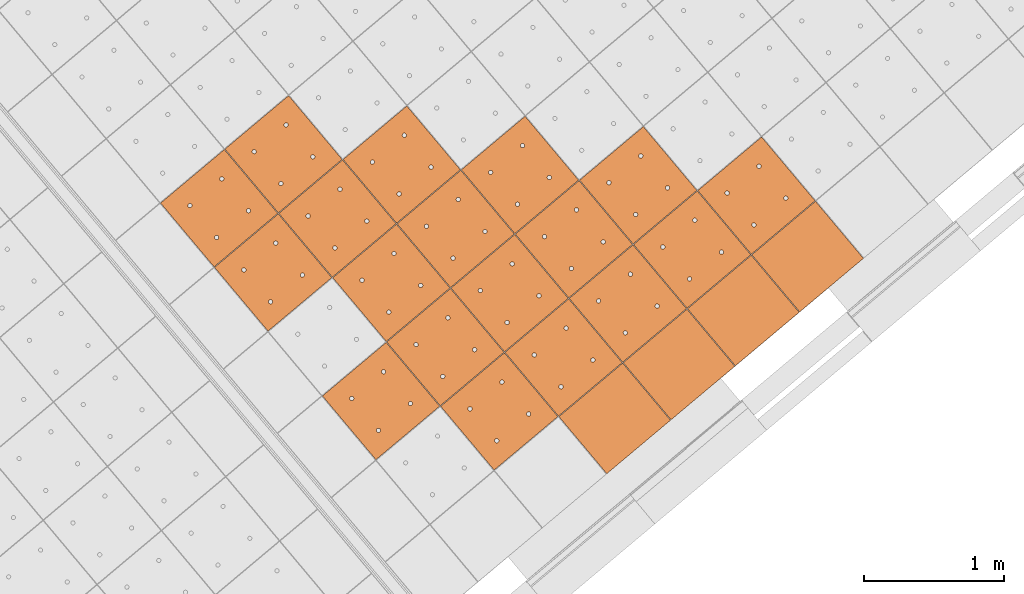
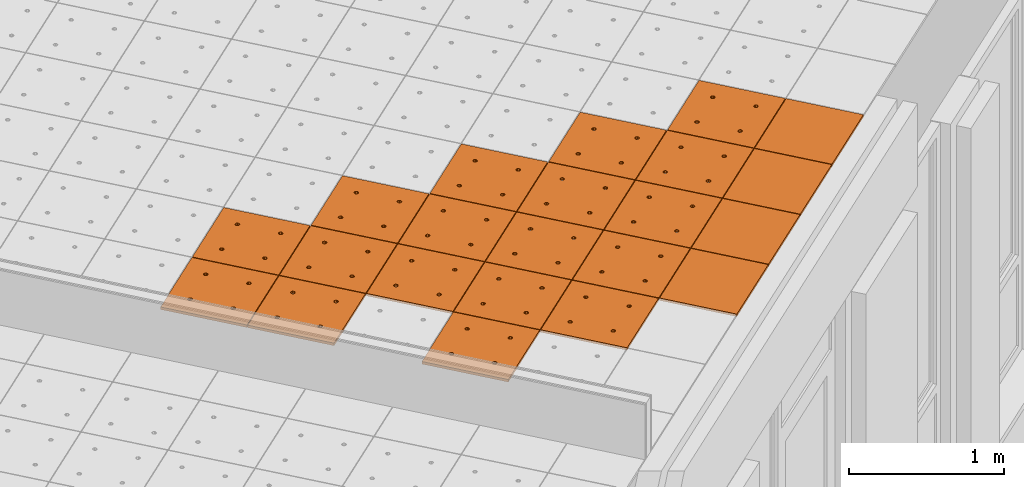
# One storey, part 181 of 338: 22 proxies, 1 element without a shape of its own.
"""IFC2X3 building model written with IfcOpenShell, lengths in millimetres."""

from ifc_helpers import new_model, entity, si_unit, converted_unit, derived_unit, money_unit, direction, frame, origin_with_axes, place, context, subcontext, project, spatial, faceted_brep, source, transform, mapped, material, type_object, type_shapes, element, aggregate, save


model = new_model("IFC2X3")

# Units and contexts
model_context = context("Model", 3, precision=0.01, world=origin_with_axes(), true_north=direction((0.0, 1.0)))
plan_context = context("Plan", 3, precision=0.01, world=origin_with_axes(), true_north=direction((0.0, 1.0)))
body_context = subcontext(model_context, "Body", "Model", "MODEL_VIEW")
ifc_project = project(units=[si_unit("LENGTHUNIT", "METRE", prefix="MILLI"), si_unit("AREAUNIT", "SQUARE_METRE"), si_unit("VOLUMEUNIT", "CUBIC_METRE"), converted_unit("PLANEANGLEUNIT", "DEGREE", entity("IfcPlaneAngleMeasure", 0.0174532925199), si_unit("PLANEANGLEUNIT", "RADIAN"), dimensions=[0, 0, 0, 0, 0, 0, 0]), money_unit("EUR"), converted_unit("TIMEUNIT", "Year", entity("IfcTimeMeasure", 31556926.0), si_unit("TIMEUNIT", "SECOND"), dimensions=[0, 0, 1, 0, 0, 0, 0]), si_unit("MASSUNIT", "GRAM", prefix="KILO"), si_unit("THERMODYNAMICTEMPERATUREUNIT", "DEGREE_CELSIUS"), si_unit("LUMINOUSINTENSITYUNIT", "LUMEN"), si_unit("ENERGYUNIT", "JOULE", prefix="MEGA"), derived_unit("THERMALCONDUCTANCEUNIT", [(si_unit("POWERUNIT", "WATT"), 1), (si_unit("LENGTHUNIT", "METRE"), -1), (si_unit("THERMODYNAMICTEMPERATUREUNIT", "KELVIN"), -1)]), derived_unit("SPECIFICHEATCAPACITYUNIT", [(si_unit("ENERGYUNIT", "JOULE"), 1), (si_unit("MASSUNIT", "GRAM", prefix="KILO"), -1), (si_unit("THERMODYNAMICTEMPERATUREUNIT", "KELVIN"), -1)]), derived_unit("MASSDENSITYUNIT", [(si_unit("MASSUNIT", "GRAM", prefix="KILO"), 1), (si_unit("VOLUMEUNIT", "CUBIC_METRE"), -1)])], contexts=[model_context, plan_context])

# Site, building, storey
site_placement = place(None, origin_with_axes())
site = spatial("IfcSite", under=ifc_project, at=site_placement, Name="Fortuinstraat Woensdrecht", CompositionType="ELEMENT")
building_placement = place(site_placement, origin_with_axes())
building = spatial("IfcBuilding", under=site, at=building_placement, Name="IKC Fortuna", CompositionType="ELEMENT")
storey_placement = place(building_placement, origin_with_axes())
storey = spatial("IfcBuildingStorey", under=building, at=storey_placement, Name="00 begane grond", CompositionType="ELEMENT", Elevation=0.0)

# Covering, proxies
covering_type = type_object("IfcCoveringType", Name="Curtain Wall Type", PredefinedType="CEILING")
covering_placement = place(storey_placement, frame((19785.7448517, -11392.5753808, 4660.0), z_axis=(0.0, 0.0, 1.0), x_axis=(1.0, 0.0, 0.0)))
covering = element("IfcCovering", 1, at=covering_placement, inside=storey, type_object=covering_type, Name="45_Plafondafwerking_P01", PredefinedType="CEILING")
ifc_material = material(Name="Gipsplaat")
building_element_proxy_type_1 = type_object("IfcBuildingElementProxyType", Name="Main Panel 600 x 600 x 20", PredefinedType="NOTDEFINED")
shared_shape_1 = source(origin_with_axes(), body_context, "Body", "Brep", [
    faceted_brep([(2.49999999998, 2.49999999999, -10.0), (300.0, 2.49999999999, -10.0), (300.0, 2.49999999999, 10.0), (2.49999999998, 2.49999999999, 10.0), (2.49999999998, 300.0, -10.0), (2.49999999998, 597.5, -10.0), (300.0, 597.5, -10.0), (597.5, 597.5, -10.0), (597.5, 300.0, -10.0), (597.5, 2.49999999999, -10.0), (166.25, 450.06232995, -10.0), (165.79423259, 452.64711538, -10.0), (164.896546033, 455.11348892, -10.0), (163.58421608, 457.38651108, -10.0), (161.897117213, 459.39711721, -10.0), (159.886511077, 461.08421608, -10.0), (157.613488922, 462.39654603, -10.0), (155.147115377, 463.29423259, -10.0), (152.562329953, 463.75, -10.0), (149.937670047, 463.75, -10.0), (147.352884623, 463.29423259, -10.0), (144.886511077, 462.39654603, -10.0), (142.613488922, 461.08421608, -10.0), (140.602882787, 459.39711721, -10.0), (138.91578392, 457.38651108, -10.0), (137.603453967, 455.11348892, -10.0), (136.705767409, 452.64711538, -10.0), (136.25, 450.06232995, -10.0), (136.25, 448.75, -10.0), (136.25, 447.43767005, -10.0), (136.705767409, 444.85288462, -10.0), (137.603453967, 442.38651108, -10.0), (138.91578392, 440.11348892, -10.0), (140.602882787, 438.10288279, -10.0), (142.613488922, 436.41578392, -10.0), (144.886511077, 435.10345397, -10.0), (147.352884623, 434.20576741, -10.0), (149.937670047, 433.75, -10.0), (152.562329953, 433.75, -10.0), (155.147115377, 434.20576741, -10.0), (157.613488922, 435.10345397, -10.0), (159.886511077, 436.41578392, -10.0), (161.897117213, 438.10288279, -10.0), (163.58421608, 440.11348892, -10.0), (164.896546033, 442.38651108, -10.0), (165.79423259, 444.85288462, -10.0), (166.25, 447.43767005, -10.0), (463.75, 450.06232995, -10.0), (463.29423259, 452.64711538, -10.0), (462.396546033, 455.11348892, -10.0), (461.08421608, 457.38651108, -10.0), (459.397117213, 459.39711721, -10.0), (457.386511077, 461.08421608, -10.0), (455.113488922, 462.39654603, -10.0), (452.647115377, 463.29423259, -10.0), (450.062329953, 463.75, -10.0), (447.437670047, 463.75, -10.0), (444.852884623, 463.29423259, -10.0), (442.386511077, 462.39654603, -10.0), (440.113488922, 461.08421608, -10.0), (438.102882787, 459.39711721, -10.0), (436.41578392, 457.38651108, -10.0), (435.103453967, 455.11348892, -10.0), (434.205767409, 452.64711538, -10.0), (433.75, 450.06232995, -10.0), (433.75, 448.75, -10.0), (433.75, 447.43767005, -10.0), (434.205767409, 444.85288462, -10.0), (435.103453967, 442.38651108, -10.0), (436.41578392, 440.11348892, -10.0), (438.102882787, 438.10288279, -10.0), (440.113488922, 436.41578392, -10.0), (442.386511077, 435.10345397, -10.0), (444.852884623, 434.20576741, -10.0), (447.437670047, 433.75, -10.0), (450.062329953, 433.75, -10.0), (452.647115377, 434.20576741, -10.0), (455.113488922, 435.10345397, -10.0), (457.386511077, 436.41578392, -10.0), (459.397117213, 438.10288279, -10.0), (461.08421608, 440.11348892, -10.0), (462.396546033, 442.38651108, -10.0), (463.29423259, 444.85288462, -10.0), (463.75, 447.43767005, -10.0), (463.75, 152.56232995, -10.0), (463.29423259, 155.14711538, -10.0), (462.396546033, 157.61348892, -10.0), (461.08421608, 159.88651108, -10.0), (459.397117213, 161.89711721, -10.0), (457.386511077, 163.58421608, -10.0), (455.113488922, 164.89654603, -10.0), (452.647115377, 165.79423259, -10.0), (450.062329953, 166.25, -10.0), (447.437670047, 166.25, -10.0), (444.852884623, 165.79423259, -10.0), (442.386511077, 164.89654603, -10.0), (440.113488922, 163.58421608, -10.0), (438.102882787, 161.89711721, -10.0), (436.41578392, 159.88651108, -10.0), (435.103453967, 157.61348892, -10.0), (434.205767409, 155.14711538, -10.0), (433.75, 152.56232995, -10.0), (433.75, 151.25, -10.0), (433.75, 149.93767005, -10.0), (434.205767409, 147.35288462, -10.0), (435.103453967, 144.88651108, -10.0), (436.41578392, 142.61348892, -10.0), (438.102882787, 140.60288279, -10.0), (440.113488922, 138.91578392, -10.0), (442.386511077, 137.60345397, -10.0), (444.852884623, 136.70576741, -10.0), (447.437670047, 136.25, -10.0), (450.062329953, 136.25, -10.0), (452.647115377, 136.70576741, -10.0), (455.113488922, 137.60345397, -10.0), (457.386511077, 138.91578392, -10.0), (459.397117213, 140.60288279, -10.0), (461.08421608, 142.61348892, -10.0), (462.396546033, 144.88651108, -10.0), (463.29423259, 147.35288462, -10.0), (463.75, 149.93767005, -10.0), (166.25, 152.56232995, -10.0), (165.79423259, 155.14711538, -10.0), (164.896546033, 157.61348892, -10.0), (163.58421608, 159.88651108, -10.0), (161.897117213, 161.89711721, -10.0), (159.886511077, 163.58421608, -10.0), (157.613488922, 164.89654603, -10.0), (155.147115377, 165.79423259, -10.0), (152.562329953, 166.25, -10.0), (149.937670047, 166.25, -10.0), (147.352884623, 165.79423259, -10.0), (144.886511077, 164.89654603, -10.0), (142.613488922, 163.58421608, -10.0), (140.602882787, 161.89711721, -10.0), (138.91578392, 159.88651108, -10.0), (137.603453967, 157.61348892, -10.0), (136.705767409, 155.14711538, -10.0), (136.25, 152.56232995, -10.0), (136.25, 151.25, -10.0), (136.25, 149.93767005, -10.0), (136.705767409, 147.35288462, -10.0), (137.603453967, 144.88651108, -10.0), (138.91578392, 142.61348892, -10.0), (140.602882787, 140.60288279, -10.0), (142.613488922, 138.91578392, -10.0), (144.886511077, 137.60345397, -10.0), (147.352884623, 136.70576741, -10.0), (149.937670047, 136.25, -10.0), (152.562329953, 136.25, -10.0), (155.147115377, 136.70576741, -10.0), (157.613488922, 137.60345397, -10.0), (159.886511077, 138.91578392, -10.0), (161.897117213, 140.60288279, -10.0), (163.58421608, 142.61348892, -10.0), (164.896546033, 144.88651108, -10.0), (165.79423259, 147.35288462, -10.0), (166.25, 149.93767005, -10.0), (597.5, 2.49999999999, 10.0), (597.5, 300.0, 10.0), (597.5, 597.5, 10.0), (300.0, 597.5, 10.0), (2.49999999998, 597.5, 10.0), (2.49999999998, 300.0, 10.0), (166.25, 450.06232995, 10.0), (166.25, 447.43767005, 10.0), (165.79423259, 444.85288462, 10.0), (164.896546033, 442.38651108, 10.0), (163.58421608, 440.11348892, 10.0), (161.897117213, 438.10288279, 10.0), (159.886511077, 436.41578392, 10.0), (157.613488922, 435.10345397, 10.0), (155.147115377, 434.20576741, 10.0), (152.562329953, 433.75, 10.0), (149.937670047, 433.75, 10.0), (147.352884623, 434.20576741, 10.0), (144.886511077, 435.10345397, 10.0), (142.613488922, 436.41578392, 10.0), (140.602882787, 438.10288279, 10.0), (138.91578392, 440.11348892, 10.0), (137.603453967, 442.38651108, 10.0), (136.705767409, 444.85288462, 10.0), (136.25, 447.43767005, 10.0), (136.25, 448.75, 10.0), (136.25, 450.06232995, 10.0), (136.705767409, 452.64711538, 10.0), (137.603453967, 455.11348892, 10.0), (138.91578392, 457.38651108, 10.0), (140.602882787, 459.39711721, 10.0), (142.613488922, 461.08421608, 10.0), (144.886511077, 462.39654603, 10.0), (147.352884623, 463.29423259, 10.0), (149.937670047, 463.75, 10.0), (152.562329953, 463.75, 10.0), (155.147115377, 463.29423259, 10.0), (157.613488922, 462.39654603, 10.0), (159.886511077, 461.08421608, 10.0), (161.897117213, 459.39711721, 10.0), (163.58421608, 457.38651108, 10.0), (164.896546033, 455.11348892, 10.0), (165.79423259, 452.64711538, 10.0), (463.75, 450.06232995, 10.0), (463.75, 447.43767005, 10.0), (463.29423259, 444.85288462, 10.0), (462.396546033, 442.38651108, 10.0), (461.08421608, 440.11348892, 10.0), (459.397117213, 438.10288279, 10.0), (457.386511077, 436.41578392, 10.0), (455.113488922, 435.10345397, 10.0), (452.647115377, 434.20576741, 10.0), (450.062329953, 433.75, 10.0), (447.437670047, 433.75, 10.0), (444.852884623, 434.20576741, 10.0), (442.386511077, 435.10345397, 10.0), (440.113488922, 436.41578392, 10.0), (438.102882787, 438.10288279, 10.0), (436.41578392, 440.11348892, 10.0), (435.103453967, 442.38651108, 10.0), (434.205767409, 444.85288462, 10.0), (433.75, 447.43767005, 10.0), (433.75, 448.75, 10.0), (433.75, 450.06232995, 10.0), (434.205767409, 452.64711538, 10.0), (435.103453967, 455.11348892, 10.0), (436.41578392, 457.38651108, 10.0), (438.102882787, 459.39711721, 10.0), (440.113488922, 461.08421608, 10.0), (442.386511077, 462.39654603, 10.0), (444.852884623, 463.29423259, 10.0), (447.437670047, 463.75, 10.0), (450.062329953, 463.75, 10.0), (452.647115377, 463.29423259, 10.0), (455.113488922, 462.39654603, 10.0), (457.386511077, 461.08421608, 10.0), (459.397117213, 459.39711721, 10.0), (461.08421608, 457.38651108, 10.0), (462.396546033, 455.11348892, 10.0), (463.29423259, 452.64711538, 10.0), (463.75, 152.56232995, 10.0), (463.75, 149.93767005, 10.0), (463.29423259, 147.35288462, 10.0), (462.396546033, 144.88651108, 10.0), (461.08421608, 142.61348892, 10.0), (459.397117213, 140.60288279, 10.0), (457.386511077, 138.91578392, 10.0), (455.113488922, 137.60345397, 10.0), (452.647115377, 136.70576741, 10.0), (450.062329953, 136.25, 10.0), (447.437670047, 136.25, 10.0), (444.852884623, 136.70576741, 10.0), (442.386511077, 137.60345397, 10.0), (440.113488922, 138.91578392, 10.0), (438.102882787, 140.60288279, 10.0), (436.41578392, 142.61348892, 10.0), (435.103453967, 144.88651108, 10.0), (434.205767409, 147.35288462, 10.0), (433.75, 149.93767005, 10.0), (433.75, 151.25, 10.0), (433.75, 152.56232995, 10.0), (434.205767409, 155.14711538, 10.0), (435.103453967, 157.61348892, 10.0), (436.41578392, 159.88651108, 10.0), (438.102882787, 161.89711721, 10.0), (440.113488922, 163.58421608, 10.0), (442.386511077, 164.89654603, 10.0), (444.852884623, 165.79423259, 10.0), (447.437670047, 166.25, 10.0), (450.062329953, 166.25, 10.0), (452.647115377, 165.79423259, 10.0), (455.113488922, 164.89654603, 10.0), (457.386511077, 163.58421608, 10.0), (459.397117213, 161.89711721, 10.0), (461.08421608, 159.88651108, 10.0), (462.396546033, 157.61348892, 10.0), (463.29423259, 155.14711538, 10.0), (166.25, 152.56232995, 10.0), (166.25, 149.93767005, 10.0), (165.79423259, 147.35288462, 10.0), (164.896546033, 144.88651108, 10.0), (163.58421608, 142.61348892, 10.0), (161.897117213, 140.60288279, 10.0), (159.886511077, 138.91578392, 10.0), (157.613488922, 137.60345397, 10.0), (155.147115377, 136.70576741, 10.0), (152.562329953, 136.25, 10.0), (149.937670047, 136.25, 10.0), (147.352884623, 136.70576741, 10.0), (144.886511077, 137.60345397, 10.0), (142.613488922, 138.91578392, 10.0), (140.602882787, 140.60288279, 10.0), (138.91578392, 142.61348892, 10.0), (137.603453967, 144.88651108, 10.0), (136.705767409, 147.35288462, 10.0), (136.25, 149.93767005, 10.0), (136.25, 151.25, 10.0), (136.25, 152.56232995, 10.0), (136.705767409, 155.14711538, 10.0), (137.603453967, 157.61348892, 10.0), (138.91578392, 159.88651108, 10.0), (140.602882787, 161.89711721, 10.0), (142.613488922, 163.58421608, 10.0), (144.886511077, 164.89654603, 10.0), (147.352884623, 165.79423259, 10.0), (149.937670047, 166.25, 10.0), (152.562329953, 166.25, 10.0), (155.147115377, 165.79423259, 10.0), (157.613488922, 164.89654603, 10.0), (159.886511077, 163.58421608, 10.0), (161.897117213, 161.89711721, 10.0), (163.58421608, 159.88651108, 10.0), (164.896546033, 157.61348892, 10.0), (165.79423259, 155.14711538, 10.0)], [[[0, 1, 2, 3]], [[0, 4, 5, 6, 7, 8, 9, 1], [10, 11, 12, 13, 14, 15, 16, 17, 18, 19, 20, 21, 22, 23, 24, 25, 26, 27, 28, 29, 30, 31, 32, 33, 34, 35, 36, 37, 38, 39, 40, 41, 42, 43, 44, 45, 46], [47, 48, 49, 50, 51, 52, 53, 54, 55, 56, 57, 58, 59, 60, 61, 62, 63, 64, 65, 66, 67, 68, 69, 70, 71, 72, 73, 74, 75, 76, 77, 78, 79, 80, 81, 82, 83], [84, 85, 86, 87, 88, 89, 90, 91, 92, 93, 94, 95, 96, 97, 98, 99, 100, 101, 102, 103, 104, 105, 106, 107, 108, 109, 110, 111, 112, 113, 114, 115, 116, 117, 118, 119, 120], [121, 122, 123, 124, 125, 126, 127, 128, 129, 130, 131, 132, 133, 134, 135, 136, 137, 138, 139, 140, 141, 142, 143, 144, 145, 146, 147, 148, 149, 150, 151, 152, 153, 154, 155, 156, 157]], [[1, 9, 158, 2]], [[3, 2, 158, 159, 160, 161, 162, 163], [164, 165, 166, 167, 168, 169, 170, 171, 172, 173, 174, 175, 176, 177, 178, 179, 180, 181, 182, 183, 184, 185, 186, 187, 188, 189, 190, 191, 192, 193, 194, 195, 196, 197, 198, 199, 200], [201, 202, 203, 204, 205, 206, 207, 208, 209, 210, 211, 212, 213, 214, 215, 216, 217, 218, 219, 220, 221, 222, 223, 224, 225, 226, 227, 228, 229, 230, 231, 232, 233, 234, 235, 236, 237], [238, 239, 240, 241, 242, 243, 244, 245, 246, 247, 248, 249, 250, 251, 252, 253, 254, 255, 256, 257, 258, 259, 260, 261, 262, 263, 264, 265, 266, 267, 268, 269, 270, 271, 272, 273, 274], [275, 276, 277, 278, 279, 280, 281, 282, 283, 284, 285, 286, 287, 288, 289, 290, 291, 292, 293, 294, 295, 296, 297, 298, 299, 300, 301, 302, 303, 304, 305, 306, 307, 308, 309, 310, 311]], [[4, 0, 3, 163]], [[5, 4, 163, 162]], [[6, 5, 162, 161]], [[7, 6, 161, 160]], [[8, 7, 160, 159]], [[9, 8, 159, 158]], [[11, 10, 164, 200]], [[12, 11, 200, 199]], [[13, 12, 199, 198]], [[14, 13, 198, 197]], [[15, 14, 197, 196]], [[16, 15, 196, 195]], [[17, 16, 195, 194]], [[18, 17, 194, 193]], [[19, 18, 193, 192]], [[20, 19, 192, 191]], [[21, 20, 191, 190]], [[22, 21, 190, 189]], [[23, 22, 189, 188]], [[24, 23, 188, 187]], [[25, 24, 187, 186]], [[26, 25, 186, 185]], [[27, 26, 185, 184]], [[28, 27, 184, 183]], [[29, 28, 183, 182]], [[30, 29, 182, 181]], [[31, 30, 181, 180]], [[32, 31, 180, 179]], [[33, 32, 179, 178]], [[34, 33, 178, 177]], [[35, 34, 177, 176]], [[36, 35, 176, 175]], [[37, 36, 175, 174]], [[38, 37, 174, 173]], [[39, 38, 173, 172]], [[40, 39, 172, 171]], [[41, 40, 171, 170]], [[42, 41, 170, 169]], [[43, 42, 169, 168]], [[44, 43, 168, 167]], [[45, 44, 167, 166]], [[46, 45, 166, 165]], [[10, 46, 165, 164]], [[48, 47, 201, 237]], [[49, 48, 237, 236]], [[50, 49, 236, 235]], [[51, 50, 235, 234]], [[52, 51, 234, 233]], [[53, 52, 233, 232]], [[54, 53, 232, 231]], [[55, 54, 231, 230]], [[56, 55, 230, 229]], [[57, 56, 229, 228]], [[58, 57, 228, 227]], [[59, 58, 227, 226]], [[60, 59, 226, 225]], [[61, 60, 225, 224]], [[62, 61, 224, 223]], [[63, 62, 223, 222]], [[64, 63, 222, 221]], [[65, 64, 221, 220]], [[66, 65, 220, 219]], [[67, 66, 219, 218]], [[68, 67, 218, 217]], [[69, 68, 217, 216]], [[70, 69, 216, 215]], [[71, 70, 215, 214]], [[72, 71, 214, 213]], [[73, 72, 213, 212]], [[74, 73, 212, 211]], [[75, 74, 211, 210]], [[76, 75, 210, 209]], [[77, 76, 209, 208]], [[78, 77, 208, 207]], [[79, 78, 207, 206]], [[80, 79, 206, 205]], [[81, 80, 205, 204]], [[82, 81, 204, 203]], [[83, 82, 203, 202]], [[47, 83, 202, 201]], [[85, 84, 238, 274]], [[86, 85, 274, 273]], [[87, 86, 273, 272]], [[88, 87, 272, 271]], [[89, 88, 271, 270]], [[90, 89, 270, 269]], [[91, 90, 269, 268]], [[92, 91, 268, 267]], [[93, 92, 267, 266]], [[94, 93, 266, 265]], [[95, 94, 265, 264]], [[96, 95, 264, 263]], [[97, 96, 263, 262]], [[98, 97, 262, 261]], [[99, 98, 261, 260]], [[100, 99, 260, 259]], [[101, 100, 259, 258]], [[102, 101, 258, 257]], [[103, 102, 257, 256]], [[104, 103, 256, 255]], [[105, 104, 255, 254]], [[106, 105, 254, 253]], [[107, 106, 253, 252]], [[108, 107, 252, 251]], [[109, 108, 251, 250]], [[110, 109, 250, 249]], [[111, 110, 249, 248]], [[112, 111, 248, 247]], [[113, 112, 247, 246]], [[114, 113, 246, 245]], [[115, 114, 245, 244]], [[116, 115, 244, 243]], [[117, 116, 243, 242]], [[118, 117, 242, 241]], [[119, 118, 241, 240]], [[120, 119, 240, 239]], [[84, 120, 239, 238]], [[122, 121, 275, 311]], [[123, 122, 311, 310]], [[124, 123, 310, 309]], [[125, 124, 309, 308]], [[126, 125, 308, 307]], [[127, 126, 307, 306]], [[128, 127, 306, 305]], [[129, 128, 305, 304]], [[130, 129, 304, 303]], [[131, 130, 303, 302]], [[132, 131, 302, 301]], [[133, 132, 301, 300]], [[134, 133, 300, 299]], [[135, 134, 299, 298]], [[136, 135, 298, 297]], [[137, 136, 297, 296]], [[138, 137, 296, 295]], [[139, 138, 295, 294]], [[140, 139, 294, 293]], [[141, 140, 293, 292]], [[142, 141, 292, 291]], [[143, 142, 291, 290]], [[144, 143, 290, 289]], [[145, 144, 289, 288]], [[146, 145, 288, 287]], [[147, 146, 287, 286]], [[148, 147, 286, 285]], [[149, 148, 285, 284]], [[150, 149, 284, 283]], [[151, 150, 283, 282]], [[152, 151, 282, 281]], [[153, 152, 281, 280]], [[154, 153, 280, 279]], [[155, 154, 279, 278]], [[156, 155, 278, 277]], [[157, 156, 277, 276]], [[121, 157, 276, 275]]]),
])
type_shapes(building_element_proxy_type_1, [shared_shape_1])
proxy_1_placement = place(covering_placement, frame((557.718536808, 1993.67870229, 1.80300219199e-10), z_axis=(0.0, 0.0, 1.0), x_axis=(1.0, 0.0, 0.0)))
proxy_1 = element("IfcBuildingElementProxy", 2, at=proxy_1_placement, type_object=building_element_proxy_type_1, material=ifc_material, Name="__600x601 Rockfon Krios", context=body_context, shape_type="MappedRepresentation", body=[
    mapped(shared_shape_1, transform((36.9769427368, 422.649625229, 0.0), x_axis=(-0.766044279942, -0.642787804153, 0.0), y_axis=(0.642787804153, -0.766044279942, 0.0), z_axis=(0.0, 0.0, 1.0))),
])
proxy_2_placement = place(covering_placement, frame((172.045854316, 2453.30527025, 1.80300219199e-10), z_axis=(0.0, 0.0, 1.0), x_axis=(1.0, 0.0, 0.0)))
proxy_2 = element("IfcBuildingElementProxy", 3, at=proxy_2_placement, type_object=building_element_proxy_type_1, material=ifc_material, Name="__600x603 Rockfon Krios", context=body_context, shape_type="MappedRepresentation", body=[
    mapped(shared_shape_1, transform((36.9769427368, 422.649625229, 0.0), x_axis=(-0.766044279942, -0.642787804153, 0.0), y_axis=(0.642787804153, -0.766044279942, 0.0), z_axis=(0.0, 0.0, 1.0))),
])
proxy_3_placement = place(covering_placement, frame((-213.626828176, 2912.93183822, 1.80300219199e-10), z_axis=(0.0, 0.0, 1.0), x_axis=(1.0, 0.0, 0.0)))
proxy_3 = element("IfcBuildingElementProxy", 4, at=proxy_3_placement, type_object=building_element_proxy_type_1, material=ifc_material, Name="__600x614 Rockfon Krios", context=body_context, shape_type="MappedRepresentation", body=[
    mapped(shared_shape_1, transform((36.9769427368, 422.649625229, 0.0), x_axis=(-0.766044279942, -0.642787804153, 0.0), y_axis=(0.642787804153, -0.766044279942, 0.0), z_axis=(0.0, 0.0, 1.0))),
])
proxy_4_placement = place(covering_placement, frame((-287.580713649, 2067.63258776, 1.99840144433e-10), z_axis=(0.0, 0.0, 1.0), x_axis=(1.0, 0.0, 0.0)))
proxy_4 = element("IfcBuildingElementProxy", 5, at=proxy_4_placement, type_object=building_element_proxy_type_1, material=ifc_material, Name="__600x633 Rockfon Krios", context=body_context, shape_type="MappedRepresentation", body=[
    mapped(shared_shape_1, transform((36.9769427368, 422.649625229, 0.0), x_axis=(-0.766044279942, -0.642787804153, 0.0), y_axis=(0.642787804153, -0.766044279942, 0.0), z_axis=(0.0, 0.0, 1.0))),
])
proxy_5_placement = place(covering_placement, frame((1403.01778727, 1919.72481681, 1.60760293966e-10), z_axis=(0.0, 0.0, 1.0), x_axis=(1.0, 0.0, 0.0)))
proxy_5 = element("IfcBuildingElementProxy", 6, at=proxy_5_placement, type_object=building_element_proxy_type_1, material=ifc_material, Name="__600x665 Rockfon Krios", context=body_context, shape_type="MappedRepresentation", body=[
    mapped(shared_shape_1, transform((36.9769427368, 422.649625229, 0.0), x_axis=(-0.766044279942, -0.642787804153, 0.0), y_axis=(0.642787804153, -0.766044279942, 0.0), z_axis=(0.0, 0.0, 1.0))),
])
proxy_6_placement = place(covering_placement, frame((1017.34510477, 2379.35138478, 1.60760293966e-10), z_axis=(0.0, 0.0, 1.0), x_axis=(1.0, 0.0, 0.0)))
proxy_6 = element("IfcBuildingElementProxy", 7, at=proxy_6_placement, type_object=building_element_proxy_type_1, material=ifc_material, Name="__600x667 Rockfon Krios", context=body_context, shape_type="MappedRepresentation", body=[
    mapped(shared_shape_1, transform((36.9769427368, 422.649625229, 0.0), x_axis=(-0.766044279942, -0.642787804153, 0.0), y_axis=(0.642787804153, -0.766044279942, 0.0), z_axis=(0.0, 0.0, 1.0))),
])
proxy_7_placement = place(covering_placement, frame((631.672422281, 2838.97795274, 1.60760293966e-10), z_axis=(0.0, 0.0, 1.0), x_axis=(1.0, 0.0, 0.0)))
proxy_7 = element("IfcBuildingElementProxy", 8, at=proxy_7_placement, type_object=building_element_proxy_type_1, material=ifc_material, Name="__600x668 Rockfon Krios", context=body_context, shape_type="MappedRepresentation", body=[
    mapped(shared_shape_1, transform((36.9769427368, 422.649625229, 0.0), x_axis=(-0.766044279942, -0.642787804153, 0.0), y_axis=(0.642787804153, -0.766044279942, 0.0), z_axis=(0.0, 0.0, 1.0))),
])
proxy_8_placement = place(covering_placement, frame((-1132.87996411, 2141.58647323, 2.20268248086e-10), z_axis=(0.0, 0.0, 1.0), x_axis=(1.0, 0.0, 0.0)))
proxy_8 = element("IfcBuildingElementProxy", 9, at=proxy_8_placement, type_object=building_element_proxy_type_1, material=ifc_material, Name="__600x673 Rockfon Krios", context=body_context, shape_type="MappedRepresentation", body=[
    mapped(shared_shape_1, transform((36.9769427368, 422.649625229, 0.0), x_axis=(-0.766044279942, -0.642787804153, 0.0), y_axis=(0.642787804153, -0.766044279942, 0.0), z_axis=(0.0, 0.0, 1.0))),
])
proxy_9_placement = place(covering_placement, frame((-1518.5526466, 2601.2130412, 2.20268248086e-10), z_axis=(0.0, 0.0, 1.0), x_axis=(1.0, 0.0, 0.0)))
proxy_9 = element("IfcBuildingElementProxy", 10, at=proxy_9_placement, type_object=building_element_proxy_type_1, material=ifc_material, Name="__600x677 Rockfon Krios", context=body_context, shape_type="MappedRepresentation", body=[
    mapped(shared_shape_1, transform((36.9769427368, 422.649625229, 0.0), x_axis=(-0.766044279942, -0.642787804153, 0.0), y_axis=(0.642787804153, -0.766044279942, 0.0), z_axis=(0.0, 0.0, 1.0))),
])
proxy_10_placement = place(covering_placement, frame((483.764651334, 1148.37945183, 1.99840144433e-10), z_axis=(0.0, 0.0, 1.0), x_axis=(1.0, 0.0, 0.0)))
proxy_10 = element("IfcBuildingElementProxy", 11, at=proxy_10_placement, type_object=building_element_proxy_type_1, material=ifc_material, Name="__600x678 Rockfon Krios", context=body_context, shape_type="MappedRepresentation", body=[
    mapped(shared_shape_1, transform((36.9769427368, 422.649625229, 0.0), x_axis=(-0.766044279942, -0.642787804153, 0.0), y_axis=(0.642787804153, -0.766044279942, 0.0), z_axis=(0.0, 0.0, 1.0))),
])
proxy_11_placement = place(covering_placement, frame((98.0919688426, 1608.0060198, 1.99840144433e-10), z_axis=(0.0, 0.0, 1.0), x_axis=(1.0, 0.0, 0.0)))
proxy_11 = element("IfcBuildingElementProxy", 12, at=proxy_11_placement, type_object=building_element_proxy_type_1, material=ifc_material, Name="__600x679 Rockfon Krios", context=body_context, shape_type="MappedRepresentation", body=[
    mapped(shared_shape_1, transform((36.9769427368, 422.649625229, 0.0), x_axis=(-0.766044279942, -0.642787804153, 0.0), y_axis=(0.642787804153, -0.766044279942, 0.0), z_axis=(0.0, 0.0, 1.0))),
])
proxy_12_placement = place(covering_placement, frame((-361.534599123, 1222.3333373, 2.20268248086e-10), z_axis=(0.0, 0.0, 1.0), x_axis=(1.0, 0.0, 0.0)))
proxy_12 = element("IfcBuildingElementProxy", 13, at=proxy_12_placement, type_object=building_element_proxy_type_1, material=ifc_material, Name="__600x681 Rockfon Krios", context=body_context, shape_type="MappedRepresentation", body=[
    mapped(shared_shape_1, transform((36.9769427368, 422.649625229, 0.0), x_axis=(-0.766044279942, -0.642787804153, 0.0), y_axis=(0.642787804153, -0.766044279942, 0.0), z_axis=(0.0, 0.0, 1.0))),
])
proxy_13_placement = place(covering_placement, frame((-673.253396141, 2527.25915573, 1.99840144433e-10), z_axis=(0.0, 0.0, 1.0), x_axis=(1.0, 0.0, 0.0)))
proxy_13 = element("IfcBuildingElementProxy", 14, at=proxy_13_placement, type_object=building_element_proxy_type_1, material=ifc_material, Name="__600x683 Rockfon Krios", context=body_context, shape_type="MappedRepresentation", body=[
    mapped(shared_shape_1, transform((36.9769427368, 422.649625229, 0.0), x_axis=(-0.766044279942, -0.642787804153, 0.0), y_axis=(0.642787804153, -0.766044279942, 0.0), z_axis=(0.0, 0.0, 1.0))),
])
proxy_14_placement = place(covering_placement, frame((-1058.92607863, 2986.88572369, 1.99840144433e-10), z_axis=(0.0, 0.0, 1.0), x_axis=(1.0, 0.0, 0.0)))
proxy_14 = element("IfcBuildingElementProxy", 15, at=proxy_14_placement, type_object=building_element_proxy_type_1, material=ifc_material, Name="__600x684 Rockfon Krios", context=body_context, shape_type="MappedRepresentation", body=[
    mapped(shared_shape_1, transform((36.9769427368, 422.649625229, 0.0), x_axis=(-0.766044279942, -0.642787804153, 0.0), y_axis=(0.642787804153, -0.766044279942, 0.0), z_axis=(0.0, 0.0, 1.0))),
])
proxy_15_placement = place(covering_placement, frame((943.3912193, 1534.05213432, 1.80300219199e-10), z_axis=(0.0, 0.0, 1.0), x_axis=(1.0, 0.0, 0.0)))
proxy_15 = element("IfcBuildingElementProxy", 16, at=proxy_15_placement, type_object=building_element_proxy_type_1, material=ifc_material, Name="__600x689 Rockfon Krios", context=body_context, shape_type="MappedRepresentation", body=[
    mapped(shared_shape_1, transform((36.9769427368, 422.649625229, 0.0), x_axis=(-0.766044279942, -0.642787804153, 0.0), y_axis=(0.642787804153, -0.766044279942, 0.0), z_axis=(0.0, 0.0, 1.0))),
])
proxy_16_placement = place(covering_placement, frame((2322.2709232, 2691.0701818, 1.21680443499e-10), z_axis=(0.0, 0.0, 1.0), x_axis=(1.0, 0.0, 0.0)))
proxy_16 = element("IfcBuildingElementProxy", 17, at=proxy_16_placement, type_object=building_element_proxy_type_1, material=ifc_material, Name="__600x742 Rockfon Krios", context=body_context, shape_type="MappedRepresentation", body=[
    mapped(shared_shape_1, transform((36.9769427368, 422.649625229, 0.0), x_axis=(-0.766044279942, -0.642787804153, 0.0), y_axis=(0.642787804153, -0.766044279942, 0.0), z_axis=(0.0, 0.0, 1.0))),
])
proxy_17_placement = place(covering_placement, frame((1476.97167274, 2765.02406727, 1.41220368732e-10), z_axis=(0.0, 0.0, 1.0), x_axis=(1.0, 0.0, 0.0)))
proxy_17 = element("IfcBuildingElementProxy", 18, at=proxy_17_placement, type_object=building_element_proxy_type_1, material=ifc_material, Name="__600x750 Rockfon Krios", context=body_context, shape_type="MappedRepresentation", body=[
    mapped(shared_shape_1, transform((36.9769427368, 422.649625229, 0.0), x_axis=(-0.766044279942, -0.642787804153, 0.0), y_axis=(0.642787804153, -0.766044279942, 0.0), z_axis=(0.0, 0.0, 1.0))),
])
proxy_18_placement = place(covering_placement, frame((1862.64435523, 2305.39749931, 1.41220368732e-10), z_axis=(0.0, 0.0, 1.0), x_axis=(1.0, 0.0, 0.0)))
proxy_18 = element("IfcBuildingElementProxy", 19, at=proxy_18_placement, type_object=building_element_proxy_type_1, material=ifc_material, Name="__600x751 Rockfon Krios", context=body_context, shape_type="MappedRepresentation", body=[
    mapped(shared_shape_1, transform((36.9769427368, 422.649625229, 0.0), x_axis=(-0.766044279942, -0.642787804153, 0.0), y_axis=(0.642787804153, -0.766044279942, 0.0), z_axis=(0.0, 0.0, 1.0))),
])
building_element_proxy_type_2 = type_object("IfcBuildingElementProxyType", Name="600 x 538 x 20", PredefinedType="NOTDEFINED")
shared_shape_2 = source(origin_with_axes(), body_context, "Body", "Brep", [
    faceted_brep([(2.49999356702, 2.5000047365, -10.0), (597.499998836, 2.49999810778, -10.0), (597.499998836, 2.49999810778, 10.0), (2.49999356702, 2.5000047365, 10.0), (2.49999991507, 535.002599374, -10.0), (597.500005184, 535.002592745, -10.0), (597.500005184, 535.002592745, 10.0), (2.49999991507, 535.002599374, 10.0)], [[[0, 1, 2, 3]], [[0, 4, 5, 1]], [[1, 5, 6, 2]], [[3, 2, 6, 7]], [[4, 0, 3, 7]], [[5, 4, 7, 6]]]),
])
type_shapes(building_element_proxy_type_2, [shared_shape_2])
proxy_19_placement = place(covering_placement, frame((2687.85745126, 2255.38134819, 1.21680443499e-10), z_axis=(0.0, 0.0, 1.0), x_axis=(1.0, 0.0, 0.0)))
proxy_19 = element("IfcBuildingElementProxy", 20, at=proxy_19_placement, type_object=building_element_proxy_type_2, material=ifc_material, Name="__600x662 Rockfon Krios", context=body_context, shape_type="MappedRepresentation", body=[
    mapped(shared_shape_2, transform((57.0630971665, 398.711890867, 0.0), x_axis=(-0.766044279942, -0.642787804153, 0.0), y_axis=(0.642787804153, -0.766044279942, 0.0), z_axis=(0.0, 0.0, 1.0))),
])
proxy_20_placement = place(covering_placement, frame((1768.60431533, 1484.03598321, 1.60760293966e-10), z_axis=(0.0, 0.0, 1.0), x_axis=(1.0, 0.0, 0.0)))
proxy_20 = element("IfcBuildingElementProxy", 21, at=proxy_20_placement, type_object=building_element_proxy_type_2, material=ifc_material, Name="__600x725 Rockfon Krios", context=body_context, shape_type="MappedRepresentation", body=[
    mapped(shared_shape_2, transform((57.0630971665, 398.711890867, 0.0), x_axis=(-0.766044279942, -0.642787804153, 0.0), y_axis=(0.642787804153, -0.766044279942, 0.0), z_axis=(0.0, 0.0, 1.0))),
])
proxy_21_placement = place(covering_placement, frame((2228.23088329, 1869.7086657, 1.41220368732e-10), z_axis=(0.0, 0.0, 1.0), x_axis=(1.0, 0.0, 0.0)))
proxy_21 = element("IfcBuildingElementProxy", 22, at=proxy_21_placement, type_object=building_element_proxy_type_2, material=ifc_material, Name="__600x734 Rockfon Krios", context=body_context, shape_type="MappedRepresentation", body=[
    mapped(shared_shape_2, transform((57.0630971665, 398.711890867, 0.0), x_axis=(-0.766044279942, -0.642787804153, 0.0), y_axis=(0.642787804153, -0.766044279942, 0.0), z_axis=(0.0, 0.0, 1.0))),
])
proxy_22_placement = place(covering_placement, frame((1308.97774736, 1098.36330072, 1.80300219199e-10), z_axis=(0.0, 0.0, 1.0), x_axis=(1.0, 0.0, 0.0)))
proxy_22 = element("IfcBuildingElementProxy", 23, at=proxy_22_placement, type_object=building_element_proxy_type_2, material=ifc_material, Name="__600x752 Rockfon Krios", context=body_context, shape_type="MappedRepresentation", body=[
    mapped(shared_shape_2, transform((57.0630971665, 398.711890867, 0.0), x_axis=(-0.766044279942, -0.642787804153, 0.0), y_axis=(0.642787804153, -0.766044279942, 0.0), z_axis=(0.0, 0.0, 1.0))),
])
aggregate(covering, [proxy_1, proxy_2, proxy_3, proxy_4, proxy_19, proxy_5, proxy_6, proxy_7, proxy_8, proxy_9, proxy_10, proxy_11, proxy_12, proxy_13, proxy_14, proxy_15, proxy_20, proxy_21, proxy_16, proxy_17, proxy_18, proxy_22])

save(model, "model.ifc")
